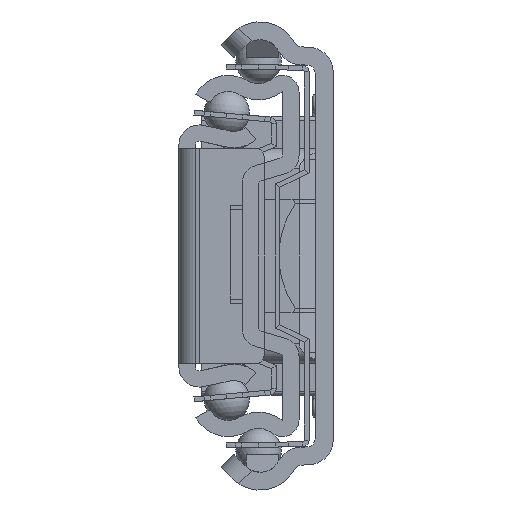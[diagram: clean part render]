
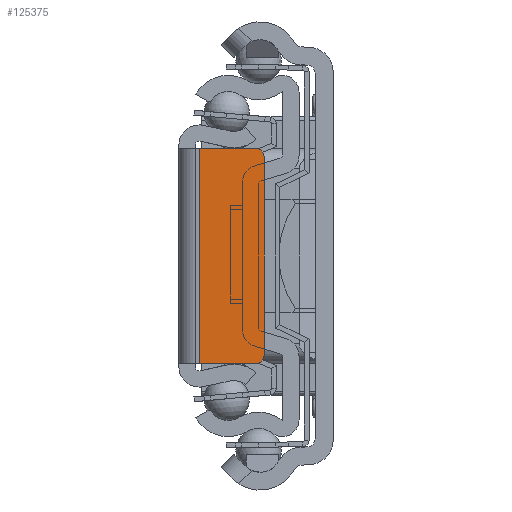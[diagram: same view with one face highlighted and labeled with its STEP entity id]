
A CAD part, left-side view. The second image highlights one B-rep face of the part: STEP entity #125375.
In plain terms, the highlighted planar face has unit normal (-1, 0, 0).
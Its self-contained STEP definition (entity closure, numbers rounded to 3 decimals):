
#119943=DIRECTION('',(0.,-1.,0.));
#119944=VECTOR('',#119943,7.);
#119945=CARTESIAN_POINT('',(0.,-2.,-13.25));
#119946=LINE('',#119945,#119944);
#119947=CARTESIAN_POINT('',(0.,-9.,-12.25));
#119948=DIRECTION('',(-1.,0.,0.));
#119949=DIRECTION('',(0.,0.,-1.));
#119950=AXIS2_PLACEMENT_3D('',#119947,#119948,#119949);
#119952=DIRECTION('',(0.,0.,-1.));
#119953=VECTOR('',#119952,26.5);
#119954=CARTESIAN_POINT('',(0.,-2.,13.25));
#119955=LINE('',#119954,#119953);
#119956=CARTESIAN_POINT('',(0.,-9.,12.25));
#119957=DIRECTION('',(-1.,0.,0.));
#119958=DIRECTION('',(0.,-1.,0.));
#119959=AXIS2_PLACEMENT_3D('',#119956,#119957,#119958);
#119965=DIRECTION('',(0.,-1.,0.));
#119966=VECTOR('',#119965,7.);
#119967=CARTESIAN_POINT('',(0.,-2.,13.25));
#119968=LINE('',#119967,#119966);
#120004=DIRECTION('',(0.,0.,1.));
#120005=VECTOR('',#120004,24.5);
#120006=CARTESIAN_POINT('',(0.,-10.,-12.25));
#120007=LINE('',#120006,#120005);
#123924=CARTESIAN_POINT('',(0.,-2.,-13.25));
#123926=VERTEX_POINT('',#123924);
#123933=CARTESIAN_POINT('',(0.,-2.,13.25));
#123935=VERTEX_POINT('',#123933);
#123952=CARTESIAN_POINT('',(0.,-9.,-13.25));
#123953=CARTESIAN_POINT('',(0.,-10.,-12.25));
#123954=VERTEX_POINT('',#123952);
#123955=VERTEX_POINT('',#123953);
#123964=CARTESIAN_POINT('',(0.,-10.,12.25));
#123965=VERTEX_POINT('',#123964);
#123966=CARTESIAN_POINT('',(0.,-9.,13.25));
#123967=VERTEX_POINT('',#123966);
#125359=CARTESIAN_POINT('',(0.,0.5,-13.25));
#125360=DIRECTION('',(-1.,0.,0.));
#125361=DIRECTION('',(0.,-1.,0.));
#125362=AXIS2_PLACEMENT_3D('',#125359,#125360,#125361);
#125363=PLANE('',#125362);
#125364=ORIENTED_EDGE('',*,*,#125349,.F.);
#125365=ORIENTED_EDGE('',*,*,#125339,.F.);
#125366=ORIENTED_EDGE('',*,*,#125319,.F.);
#125368=ORIENTED_EDGE('',*,*,#125367,.T.);
#125370=ORIENTED_EDGE('',*,*,#125369,.F.);
#125372=ORIENTED_EDGE('',*,*,#125371,.F.);
#125373=EDGE_LOOP('',(#125364,#125365,#125366,#125368,#125370,#125372));
#125374=FACE_OUTER_BOUND('',#125373,.F.);
#119951=CIRCLE('',#119950,1.);
#119960=CIRCLE('',#119959,1.);
#125319=EDGE_CURVE('',#123935,#123926,#119955,.T.);
#125339=EDGE_CURVE('',#123926,#123954,#119946,.T.);
#125349=EDGE_CURVE('',#123954,#123955,#119951,.T.);
#125367=EDGE_CURVE('',#123935,#123967,#119968,.T.);
#125369=EDGE_CURVE('',#123965,#123967,#119960,.T.);
#125371=EDGE_CURVE('',#123955,#123965,#120007,.T.);
#125375=ADVANCED_FACE('',(#125374),#125363,.T.);
